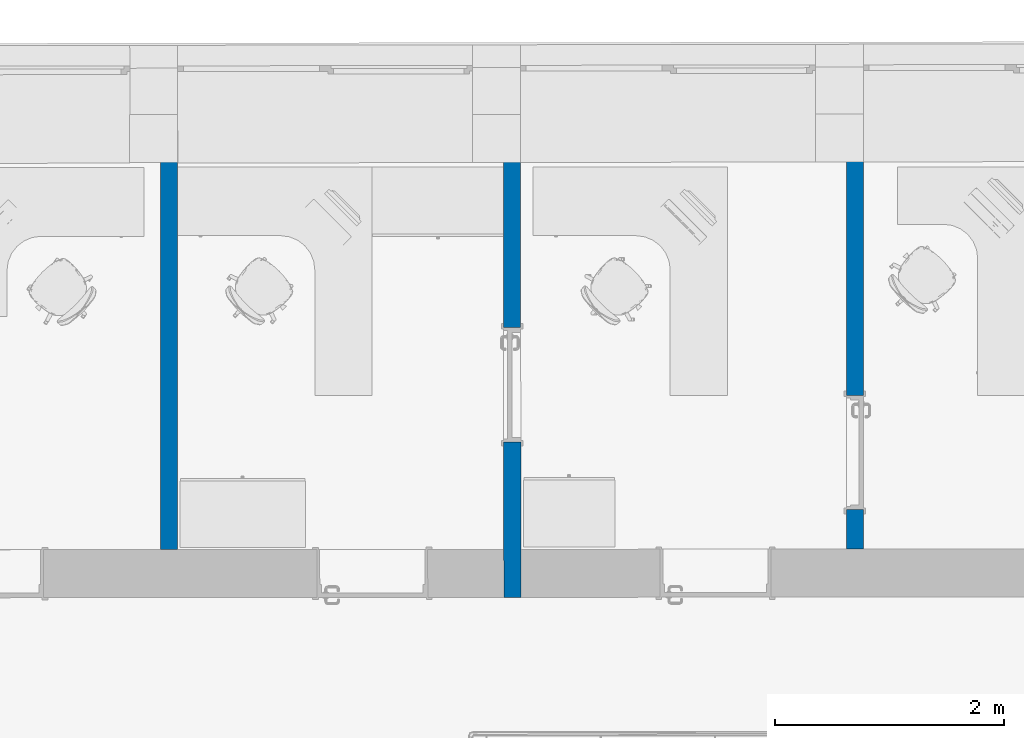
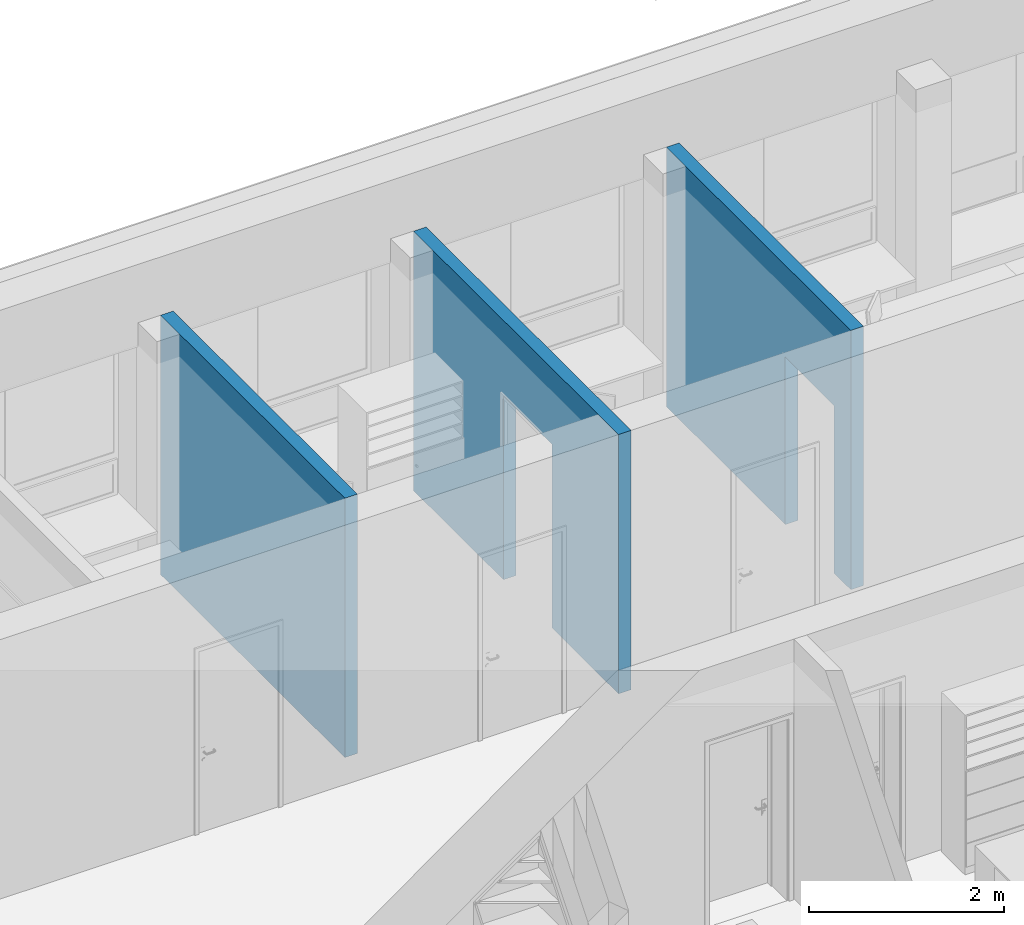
# One storey, part 8 of 194: 3 walls, 2 openings.
"""IFC2X3 building model written with IfcOpenShell, lengths in millimetres."""

from ifc_helpers import new_model, entity, si_unit, converted_unit, derived_unit, money_unit, direction, frame, origin_with_axes, origin_2d_with_axis, place, context, subcontext, project, spatial, polyline, rectangle, outline, extrude, material, layer, layer_set, layer_usage, type_object, element, save


model = new_model("IFC2X3")

# Units and contexts
model_context = context("Model", 3, precision=1e-05, world=origin_with_axes(), true_north=direction((0.0, 1.0)))
body_context = subcontext(model_context, "Body", "Model", "MODEL_VIEW")
ifc_project = project(units=[si_unit("LENGTHUNIT", "METRE", prefix="MILLI"), si_unit("AREAUNIT", "SQUARE_METRE"), si_unit("VOLUMEUNIT", "CUBIC_METRE"), converted_unit("PLANEANGLEUNIT", "DEGREE", entity("IfcPlaneAngleMeasure", 0.0174532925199), si_unit("PLANEANGLEUNIT", "RADIAN"), dimensions=[0, 0, 0, 0, 0, 0, 0]), si_unit("SOLIDANGLEUNIT", "STERADIAN"), money_unit("EUR"), converted_unit("TIMEUNIT", "Year", entity("IfcTimeMeasure", 31556926.0), si_unit("TIMEUNIT", "SECOND"), dimensions=[0, 0, 1, 0, 0, 0, 0]), si_unit("MASSUNIT", "GRAM", prefix="KILO"), si_unit("THERMODYNAMICTEMPERATUREUNIT", "DEGREE_CELSIUS"), si_unit("LUMINOUSINTENSITYUNIT", "LUMEN"), si_unit("ENERGYUNIT", "JOULE", prefix="MEGA"), derived_unit("THERMALCONDUCTANCEUNIT", [(si_unit("POWERUNIT", "WATT"), 1), (si_unit("LENGTHUNIT", "METRE"), -1), (si_unit("THERMODYNAMICTEMPERATUREUNIT", "KELVIN"), -1)]), derived_unit("SPECIFICHEATCAPACITYUNIT", [(si_unit("ENERGYUNIT", "JOULE"), 1), (si_unit("MASSUNIT", "GRAM", prefix="KILO"), -1), (si_unit("THERMODYNAMICTEMPERATUREUNIT", "KELVIN"), -1)]), derived_unit("MASSDENSITYUNIT", [(si_unit("MASSUNIT", "GRAM", prefix="KILO"), 1), (si_unit("VOLUMEUNIT", "CUBIC_METRE"), -1)])], contexts=[model_context])

# Site, building, storey
site_placement = place(None, origin_with_axes())
site = spatial("IfcSite", under=ifc_project, at=site_placement, Name="Site", CompositionType="ELEMENT")
building_placement = place(site_placement, origin_with_axes())
building = spatial("IfcBuilding", under=site, at=building_placement, Name="Building", CompositionType="ELEMENT")
storey_placement = place(building_placement, frame((0.0, 0.0, 3000.0), z_axis=(0.0, 0.0, 1.0), x_axis=(1.0, 0.0, 0.0)))
storey = spatial("IfcBuildingStorey", under=building, at=storey_placement, Name="2 KORRUS", CompositionType="ELEMENT", Elevation=3000.0)

# Wall
ifc_material = material(Name="Kivi -Ol.Olev Konstruktsioon")
ifc_layer = layer(ifc_material, 150.0, ventilated="UNKNOWN")
ifc_layer_set = layer_set([ifc_layer], Name="ol.olev ss 150")
ifc_layer_usage_1 = layer_usage(ifc_layer_set, "AXIS2", "POSITIVE", -150.0)
wall_type = type_object("IfcWallType", Name="SW - 022", PredefinedType="NOTDEFINED")
wall_1_placement = place(storey_placement, frame((22154.3611302, 47295.9063528, 0.0), z_axis=(0.0, 0.0, 1.0), x_axis=(0.0, -1.0, 0.0)))
element("IfcWallStandardCase", 1, at=wall_1_placement, inside=storey, type_object=wall_type, material=ifc_layer_usage_1, Name="ol.olev ss 150", context=body_context, shape_type="SweptSolid", body=[
    extrude(outline(polyline([(430.241244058, -150.0), (4212.66009702, -150.0), (4212.54050368, 0.0), (430.000553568, 0.0), (430.241244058, -150.0)])), origin_with_axes(), (0.0, 0.0, 1.0), 3250.0),
])

# Wall, opening
ifc_layer_usage_2 = layer_usage(ifc_layer_set, "AXIS2", "POSITIVE", -150.0)
wall_2_placement = place(storey_placement, frame((25153.7376611, 47300.7191622, 0.0), z_axis=(0.0, 0.0, 1.0), x_axis=(0.000797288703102, -0.999999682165, 0.0)))
wall_2 = element("IfcWallStandardCase", 2, at=wall_2_placement, inside=storey, type_object=wall_type, material=ifc_layer_usage_2, Name="ol.olev ss 150", context=body_context, shape_type="SweptSolid", body=[
    extrude(outline(polyline([(430.121237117, -150.0), (4634.98322566, -150.0), (4634.98322566, 0.0), (430.000140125, 1.13686837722e-10), (430.121237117, -150.0)])), origin_with_axes(), (0.0, 0.0, 1.0), 3250.0),
])
opening_1_placement = place(wall_2_placement, frame((2775.60504922, 1.13686837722e-10, 0.0), z_axis=(0.0, 0.0, 1.0), x_axis=(1.0, 0.0, 0.0)))
element("IfcOpeningElement", 3, at=opening_1_placement, cuts=wall_2, Name="Siseuks * Door 22", context=body_context, shape_type="SweptSolid", body=[
    extrude(rectangle(XDim=1000.0, YDim=2300.0, at=origin_2d_with_axis()), frame((-9.09494701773e-10, -150.0, 1150.0), z_axis=(0.0, -1.0, 0.0), x_axis=(1.0, 0.0, 0.0)), (0.0, 0.0, -1.0), 450.0),
    extrude(rectangle(XDim=1074.0, YDim=2337.0, at=origin_2d_with_axis()), frame((0.0, -150.0, 1168.5), z_axis=(0.0, -1.0, 0.0), x_axis=(1.0, 0.0, 0.0)), (0.0, 0.0, 1.0), 150.0),
    extrude(rectangle(XDim=1074.0, YDim=2337.0, at=origin_2d_with_axis()), frame((0.0, 0.0, 1168.5), z_axis=(0.0, 1.0, 0.0), x_axis=(1.0, 0.0, 0.0)), (0.0, 0.0, 1.0), 150.0),
])

ifc_layer_usage_3 = layer_usage(ifc_layer_set, "AXIS2", "POSITIVE", -150.0)
wall_3_placement = place(storey_placement, frame((28154.3213896, 47305.5339086, 0.0), z_axis=(0.0, 0.0, 1.0), x_axis=(1.04426663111e-05, -0.999999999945, 0.0)))
wall_3 = element("IfcWallStandardCase", 4, at=wall_3_placement, inside=storey, type_object=wall_type, material=ifc_layer_usage_3, Name="ol.olev ss 150", context=body_context, shape_type="SweptSolid", body=[
    extrude(outline(polyline([(430.23967047, -150.0), (4217.50234959, -150.0), (4217.38432264, 0.0), (430.000546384, 0.0), (430.23967047, -150.0)])), origin_with_axes(), (0.0, 0.0, 1.0), 3250.0),
])
opening_2_placement = place(wall_3_placement, frame((3371.53937454, 0.0, 0.0), z_axis=(0.0, 0.0, 1.0), x_axis=(1.0, 0.0, 0.0)))
element("IfcOpeningElement", 5, at=opening_2_placement, cuts=wall_3, Name="Siseuks * Door 22", context=body_context, shape_type="SweptSolid", body=[
    extrude(rectangle(XDim=1000.0, YDim=2100.0, at=origin_2d_with_axis()), frame((0.0, -150.0, 1050.0), z_axis=(0.0, 1.0, 0.0), x_axis=(1.0, 0.0, 0.0)), (0.0, 0.0, 1.0), 450.0),
    extrude(rectangle(XDim=1074.0, YDim=2137.0, at=origin_2d_with_axis()), frame((0.0, -150.0, 1068.5), z_axis=(0.0, 1.0, 0.0), x_axis=(1.0, 0.0, 0.0)), (0.0, 0.0, -1.0), 150.0),
    extrude(rectangle(XDim=1074.0, YDim=2137.0, at=origin_2d_with_axis()), frame((0.0, 0.0, 1068.5), z_axis=(0.0, -1.0, 0.0), x_axis=(1.0, 0.0, 0.0)), (0.0, 0.0, -1.0), 150.0),
])

save(model, "model.ifc")
